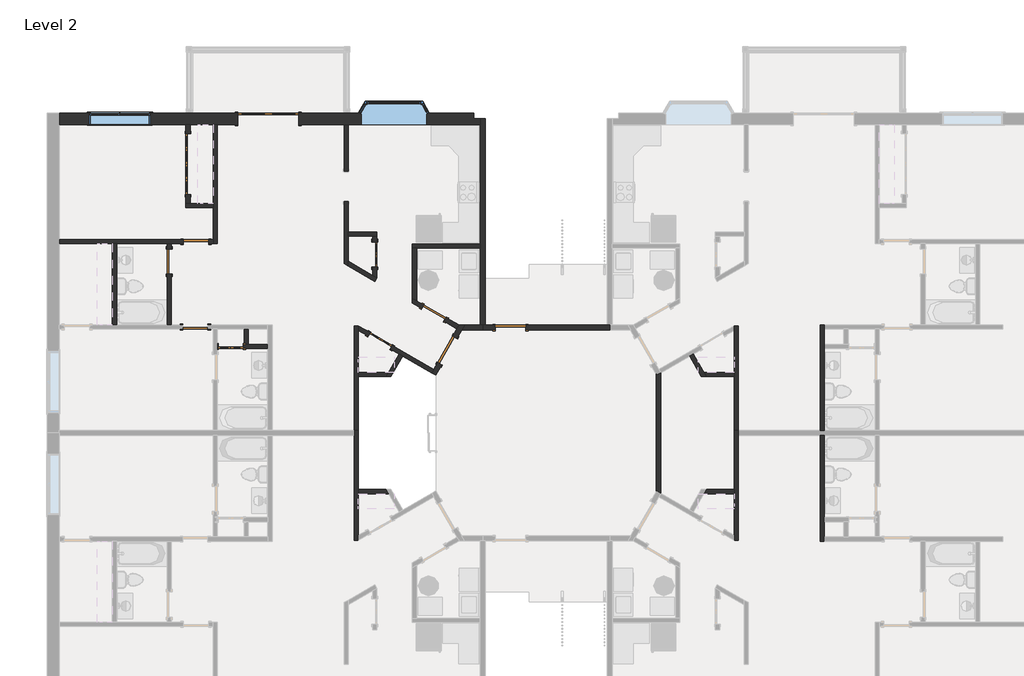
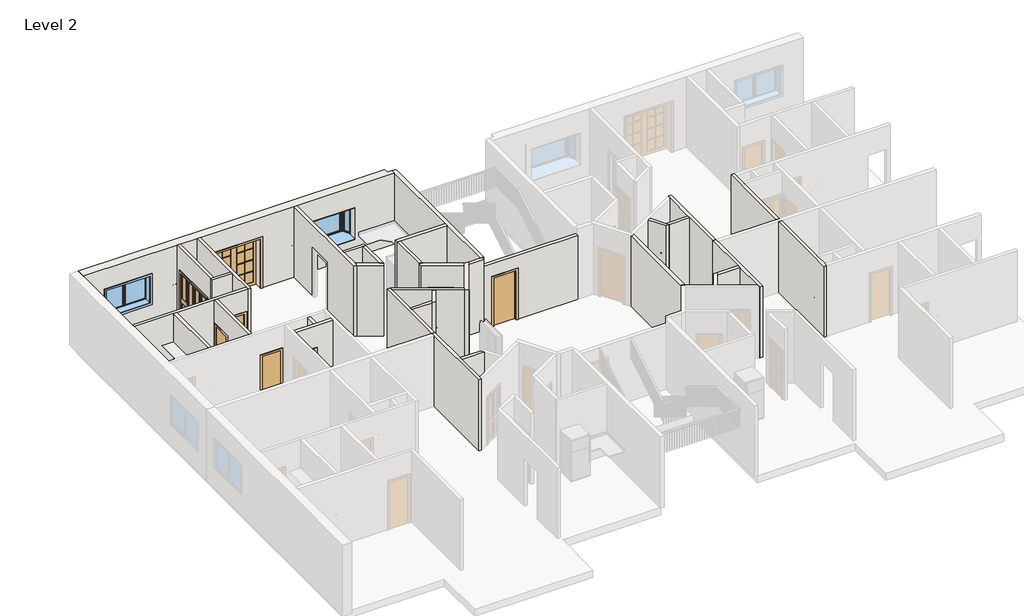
# One storey, part 3 of 5: 34 walls, 11 doors, 2 windows.
"""IFC4 building model written with IfcOpenShell, lengths in millimetres."""

from ifc_helpers import new_model, si_unit, frame, origin, place, context, project, spatial, polyline, outline, extrude, faceted_brep, transform, mapped, element, save
from components import door_28b41c19, door_77c9d7c5, door_beec499a, door_8fade463, door_91cbdfe0, door_39079f6b, door_e1308624, door_51669b0d, window_7fb523db, window_801eb773

model = new_model("IFC4")

# Units and contexts
model_context = context("Model", 3, world=origin())
ifc_project = project(units=[si_unit("LENGTHUNIT", "METRE", prefix="MILLI")], contexts=[model_context])

# Site, building, storey
site = spatial("IfcSite", under=ifc_project)
building = spatial("IfcBuilding", under=site)
storey = spatial("IfcBuildingStorey", under=building, Name="Level 2", Elevation=3048.0)

# Doors
placement = place(None, origin())
door_shape = door_28b41c19(model_context)
element("IfcDoor", 1, ObjectType="Bifold-2 Panel : 30\" x 80\"", at=placement, inside=storey, context=model_context, shape_type="MappedRepresentation", body=[
    mapped(door_shape, transform((-5777.2375398, 7161.5213201, 3048.0), x_axis=(0.0, 1.0, 0.0), y_axis=(-1.0, 0.0, 0.0), z_axis=(0.0, 0.0, 1.0))),
])
element("IfcDoor", 2, ObjectType="Bifold-2 Panel : 30\" x 80\"", at=placement, inside=storey, context=model_context, shape_type="MappedRepresentation", body=[
    mapped(door_shape, transform((-5620.6593942, 4569.8411376, 3048.0), x_axis=(-0.8660254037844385, 0.5000000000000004, 0.0), y_axis=(-0.5000000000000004, -0.8660254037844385, 0.0), z_axis=(0.0, 0.0, 1.0))),
])
door_2_shape = door_77c9d7c5(model_context)
element("IfcDoor", 3, ObjectType="Bifold-2 Panel : 30\" x 80\"", at=placement, inside=storey, context=model_context, shape_type="MappedRepresentation", body=[
    mapped(door_2_shape, transform((-10106.3500398, 4399.2713201, 3048.0), x_axis=(-1.0, 0.0, 0.0), y_axis=(0.0, -1.0, 0.0), z_axis=(0.0, 0.0, 1.0))),
])
door_3_shape = door_beec499a(model_context)
element("IfcDoor", 4, ObjectType="Bifold-4 Panel : 72\" x 80\"", at=placement, inside=storey, context=model_context, shape_type="MappedRepresentation", body=[
    mapped(door_3_shape, transform((-11387.4625398, 9879.3213201, 3048.0), x_axis=(0.0, -1.0, 0.0), y_axis=(1.0, 0.0, 0.0), z_axis=(0.0, 0.0, 1.0))),
])
door_4_shape = door_8fade463(model_context)
element("IfcDoor", 5, ObjectType="Double-Glass 2 : 72\" x 84\"", at=placement, inside=storey, context=model_context, shape_type="MappedRepresentation", body=[
    mapped(door_4_shape, transform((-8972.8750398, 11238.2213201, 3048.0), x_axis=(-1.0, 0.0, 0.0), y_axis=(0.0, -1.0, 0.0), z_axis=(0.0, 0.0, 1.0))),
])
door_5_shape = door_91cbdfe0(model_context)
element("IfcDoor", 6, ObjectType="Single-Flush : 30\" x 80\"", at=placement, inside=storey, context=model_context, shape_type="MappedRepresentation", body=[
    mapped(door_5_shape, transform((-11169.9750398, 4983.4713201, 3048.0), x_axis=(1.0, 0.0, 0.0), y_axis=(0.0, 1.0, 0.0), z_axis=(0.0, 0.0, 1.0))),
])
door_6_shape = door_39079f6b(model_context)
element("IfcDoor", 7, ObjectType="Single-Flush : 30\" x 80\"", at=placement, inside=storey, context=model_context, shape_type="MappedRepresentation", body=[
    mapped(door_6_shape, transform((-11154.1000398, 7545.6963201, 3048.0), x_axis=(1.0, 0.0, 0.0), y_axis=(0.0, 1.0, 0.0), z_axis=(0.0, 0.0, 1.0))),
])
element("IfcDoor", 8, ObjectType="Single-Flush : 30\" x 80\"", at=placement, inside=storey, context=model_context, shape_type="MappedRepresentation", body=[
    mapped(door_6_shape, transform((-4004.5369788, 5400.5472723, 3048.0), x_axis=(0.8660254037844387, -0.4999999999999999, 0.0), y_axis=(0.4999999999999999, 0.8660254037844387, 0.0), z_axis=(0.0, 0.0, 1.0))),
])
element("IfcDoor", 9, ObjectType="Single-Flush : 30\" x 80\"", at=placement, inside=storey, context=model_context, shape_type="MappedRepresentation", body=[
    mapped(door_6_shape, transform((-11949.4375398, 6950.3838201, 3048.0), x_axis=(0.0, 1.0, 0.0), y_axis=(-1.0, 0.0, 0.0), z_axis=(0.0, 0.0, 1.0))),
])
door_7_shape = door_e1308624(model_context)
element("IfcDoor", 10, ObjectType="Single-Flush : 36\" x 80\"", at=placement, inside=storey, context=model_context, shape_type="MappedRepresentation", body=[
    mapped(door_7_shape, transform((-3603.7554054, 4278.6213201, 3048.0), x_axis=(-0.5000000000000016, -0.8660254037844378, 0.0), y_axis=(0.8660254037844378, -0.5000000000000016, 0.0), z_axis=(0.0, 0.0, 1.0))),
])
door_8_shape = door_51669b0d(model_context)
element("IfcDoor", 11, ObjectType="Single-Flush : 36\" x 84\"", at=placement, inside=storey, context=model_context, shape_type="MappedRepresentation", body=[
    mapped(door_8_shape, transform((-1698.9500398, 4964.4213201, 3048.0), x_axis=(-1.0, 0.0, 0.0), y_axis=(0.0, -1.0, 0.0), z_axis=(0.0, 0.0, 1.0))),
])

# Walls
element("IfcWall", 12, ObjectType="Exterior - Brick on Mtl. Stud", at=placement, inside=storey, context=model_context, shape_type="Brep", body=[
    faceted_brep([(-15259.3750398, 11062.0088201, 3048.0), (-11449.3750398, 11062.0088201, 3048.0), (-11325.5500398, 11062.0088201, 3048.0), (-10636.5750398, 11062.0088201, 3048.0), (-10512.7500398, 11062.0088201, 3048.0), (-9887.2750398, 11062.0088201, 3048.0), (-9887.2750398, 11062.0088201, 5181.6), (-8058.4750398, 11062.0088201, 5181.6), (-8058.4750398, 11062.0088201, 3048.0), (-6702.7500398, 11062.0088201, 3048.0), (-6578.9250398, 11062.0088201, 3048.0), (-2813.3750398, 11062.0088201, 3048.0), (-2616.5250398, 11062.0088201, 3048.0), (-2616.5250398, 11062.0088201, 6096.0), (-2813.3750398, 11062.0088201, 6096.0), (-6578.9250398, 11062.0088201, 6096.0), (-6702.7500398, 11062.0088201, 6096.0), (-8058.4750398, 11062.0088201, 6096.0), (-9887.2750398, 11062.0088201, 6096.0), (-10512.7500398, 11062.0088201, 6096.0), (-10636.5750398, 11062.0088201, 6096.0), (-11325.5500398, 11062.0088201, 6096.0), (-11449.3750398, 11062.0088201, 6096.0), (-15259.3750398, 11062.0088201, 6096.0), (-6192.5376998, 11062.0088201, 5181.6), (-4218.9373798, 11062.0088201, 5181.6), (-4218.9373798, 11062.0088201, 3810.0), (-6192.5376998, 11062.0088201, 3810.0), (-14350.5312898, 11062.0088201, 5181.6), (-12521.7312898, 11062.0088201, 5181.6), (-12521.7312898, 11062.0088201, 3962.4), (-14350.5312898, 11062.0088201, 3962.4), (-9887.2750398, 11414.4338201, 5181.6), (-9887.2750398, 11414.4338201, 3048.0), (-15259.3750398, 11414.4338201, 3048.0), (-15259.3750398, 11414.4338201, 6096.0), (-9887.2750398, 11414.4338201, 6096.0), (-8058.4750398, 11414.4338201, 6096.0), (-2813.3750398, 11414.4338201, 6096.0), (-2813.3750398, 11414.4338201, 3048.0), (-8058.4750398, 11414.4338201, 3048.0), (-8058.4750398, 11414.4338201, 5181.6), (-4151.6375398, 11414.4338201, 5181.6), (-6259.7532738, 11414.4338201, 5181.6), (-6259.7532738, 11414.4338201, 3810.0), (-4151.6375398, 11414.4338201, 3810.0), (-14350.5312898, 11414.4338201, 5181.6), (-14350.5312898, 11414.4338201, 3962.4), (-12521.7312898, 11414.4338201, 3962.4), (-12521.7312898, 11414.4338201, 5181.6), (-2813.3750398, 11238.2213201, 3048.0), (-2616.5250398, 11238.2213201, 3048.0), (-2616.5250398, 11238.2213201, 6096.0), (-2813.3750398, 11238.2213201, 6096.0), (-4218.9373798, 11375.4830814, 5181.6), (-6192.5376998, 11375.5317324, 5181.6), (-4218.9373798, 11375.4830814, 3810.0), (-6192.5376998, 11375.5317324, 3810.0)], [[[0, 1, 2, 3, 4, 5, 6, 7, 8, 9, 10, 11, 12, 13, 14, 15, 16, 17, 18, 19, 20, 21, 22, 23], [24, 25, 26, 27], [28, 29, 30, 31]], [[32, 33, 34, 35, 36, 37, 38, 39, 40, 41], [42, 43, 44, 45], [46, 47, 48, 49]], [[34, 33, 5, 4, 3, 2, 1, 0]], [[40, 39, 50, 51, 12, 11, 10, 9, 8]], [[23, 22, 21, 20, 19, 18, 17, 16, 15, 14, 13, 52, 53, 38, 37, 36, 35]], [[0, 23, 35, 34]], [[13, 12, 51, 52]], [[51, 50, 53, 52]], [[50, 39, 38, 53]], [[6, 5, 33, 32]], [[7, 6, 32, 41]], [[8, 7, 41, 40]], [[54, 25, 24, 55, 43, 42]], [[56, 45, 44, 57, 27, 26]], [[54, 56, 26, 25]], [[24, 27, 57, 55]], [[55, 57, 44, 43]], [[42, 45, 56, 54]], [[47, 46, 28, 31]], [[48, 47, 31, 30]], [[49, 48, 30, 29]], [[46, 49, 29, 28]]]),
])
element("IfcWall", 13, ObjectType="Generic - 6\" Masonry", at=placement, inside=storey, context=model_context, shape_type="Brep", body=[
    faceted_brep([(-3166.564131, 4892.9838201, 3048.0), (-2538.7375398, 4892.9838201, 3048.0), (-2538.7375398, 4892.9838201, 5791.2), (-2538.7375398, 4892.9838201, 6096.0), (-3166.564131, 4892.9838201, 6096.0), (-3084.0752113, 5035.8588201, 3048.0), (-3084.0752113, 5035.8588201, 6096.0), (-2616.5250398, 5035.8588201, 6096.0), (-2538.7375398, 5035.8588201, 6096.0), (-2538.7375398, 5035.8588201, 5791.2), (-2538.7375398, 5035.8588201, 3048.0), (-2616.5250398, 5035.8588201, 3048.0)], [[[0, 1, 2, 3, 4]], [[5, 6, 7, 8, 9, 10, 11]], [[1, 0, 5, 11, 10]], [[3, 2, 1, 10, 9, 8]], [[4, 3, 8, 7, 6]], [[0, 4, 6, 5]]]),
])
element("IfcWall", 14, ObjectType="Generic - 6\" Masonry", at=placement, inside=storey, context=model_context, shape_type="Brep", body=[
    faceted_brep([(-3950.9690828, 3534.3545898, 3048.0), (-3770.4887156, 3846.9557555, 3048.0), (-3770.4887156, 3846.9557555, 5080.0), (-3313.2887156, 4638.8493847, 5080.0), (-3313.2887156, 4638.8493847, 3048.0), (-3166.564131, 4892.9838201, 3048.0), (-3084.0752113, 5035.8588201, 3048.0), (-3084.0752113, 5035.8588201, 6096.0), (-3166.564131, 4892.9838201, 6096.0), (-3950.9690828, 3534.3545898, 6096.0), (-3894.2220952, 3918.3932555, 5080.0), (-3894.2220952, 3918.3932555, 3048.0), (-4012.7899624, 3713.0276854, 3048.0), (-4074.7024624, 3605.7920898, 3048.0), (-4074.7024624, 3605.7920898, 6096.0), (-4012.7899624, 3713.0276854, 6096.0), (-3310.9655507, 4928.6232245, 6096.0), (-3249.0530507, 5035.8588201, 6096.0), (-3249.0530507, 5035.8588201, 3048.0), (-3310.9655507, 4928.6232245, 3048.0), (-3437.0220952, 4710.2868847, 3048.0), (-3437.0220952, 4710.2868847, 5080.0)], [[[0, 1, 2, 3, 4, 5, 6, 7, 8, 9]], [[10, 11, 12, 13, 14, 15, 16, 17, 18, 19, 20, 21]], [[13, 12, 11, 1, 0]], [[20, 19, 18, 6, 5, 4]], [[9, 8, 7, 17, 16, 15, 14]], [[7, 6, 18, 17]], [[0, 9, 14, 13]], [[2, 1, 11, 10]], [[3, 2, 10, 21]], [[4, 3, 21, 20]]]),
])
element("IfcWall", 15, ObjectType="Generic - 6\" Masonry", at=placement, inside=storey, context=model_context, shape_type="SweptSolid", body=[
    extrude(outline(polyline([(2810.4023827, 3605.7920898), (2810.4023827, -14.2494496), (2686.6690032, 57.1880504), (2667.5273827, 24.0337913), (2667.5273827, 3567.5088489), (2686.6690032, 3534.3545898), (2810.4023827, 3605.7920898)])), frame((0.0, 0.0, 3048.0), z_axis=(0.0, 0.0, 1.0), x_axis=(1.0, 0.0, 0.0)), (0.0, 0.0, 1.0), 3048.0),
])
element("IfcWall", 16, ObjectType="Generic - 6\" Masonry", at=placement, inside=storey, context=model_context, shape_type="Brep", body=[
    faceted_brep([(-2538.7375398, 4892.9838201, 3048.0), (-2156.1500398, 4892.9838201, 3048.0), (-2156.1500398, 4892.9838201, 5181.6), (-1241.7500398, 4892.9838201, 5181.6), (-1241.7500398, 4892.9838201, 3048.0), (1274.4374602, 4892.9838201, 3048.0), (1274.4374602, 4892.9838201, 5791.2), (-2538.7375398, 4892.9838201, 5791.2), (-2156.1500398, 5035.8588201, 5181.6), (-2156.1500398, 5035.8588201, 3048.0), (-2460.9500398, 5035.8588201, 3048.0), (-2538.7375398, 5035.8588201, 3048.0), (-2538.7375398, 5035.8588201, 5791.2), (1274.4374602, 5035.8588201, 5791.2), (1274.4374602, 5035.8588201, 3048.0), (1196.6499602, 5035.8588201, 3048.0), (-1241.7500398, 5035.8588201, 3048.0), (-1241.7500398, 5035.8588201, 5181.6), (1274.4374602, 4964.4213201, 5791.2), (-2538.7375398, 4964.4213201, 5791.2)], [[[0, 1, 2, 3, 4, 5, 6, 7]], [[8, 9, 10, 11, 12, 13, 14, 15, 16, 17]], [[11, 10, 9, 1, 0]], [[16, 15, 14, 5, 4]], [[6, 5, 14, 13, 18]], [[0, 7, 19, 12, 11]], [[2, 1, 9, 8]], [[3, 2, 8, 17]], [[4, 3, 17, 16]], [[7, 6, 18, 13, 12, 19]]]),
])
element("IfcWall", 17, ObjectType="Interior - 4 7/8\" Partition (1-hr)", at=placement, inside=storey, context=model_context, shape_type="Brep", body=[
    faceted_brep([(-6277.3000398, -1428.900548, 3048.0), (-6277.3000398, -1285.9197539, 3048.0), (-6277.3000398, -28.7548222, 3048.0), (-6277.3000398, 95.0701778, 3048.0), (-6277.3000398, 1873.5588201, 3048.0), (-6277.3000398, 1873.5588201, 6096.0), (-6277.3000398, 95.0701778, 6096.0), (-6277.3000398, -28.7548222, 6096.0), (-6277.3000398, -1285.9197539, 6096.0), (-6277.3000398, -1428.900548, 6096.0), (-6401.1250398, -1428.900548, 3048.0), (-6401.1250398, -1428.900548, 6096.0), (-6401.1250398, 1717.9838201, 6096.0), (-6401.1250398, 1873.5588201, 6096.0), (-6401.1250398, 1873.5588201, 3048.0), (-6401.1250398, 1717.9838201, 3048.0)], [[[0, 1, 2, 3, 4, 5, 6, 7, 8, 9]], [[10, 11, 12, 13, 14, 15]], [[4, 3, 2, 1, 0, 10, 15, 14]], [[9, 8, 7, 6, 5, 13, 12, 11]], [[0, 9, 11, 10]], [[5, 4, 14, 13]]]),
])
element("IfcWall", 18, ObjectType="Interior - 4 7/8\" Partition (1-hr)", at=placement, inside=storey, context=model_context, shape_type="SweptSolid", body=[
    extrude(outline(polyline([(-6277.3000398, 95.0701778), (-5439.310023, 95.0701778), (-5367.8196259, -28.7548222), (-6277.3000398, -28.7548222), (-6277.3000398, 95.0701778)])), frame((0.0, 0.0, 3048.0), z_axis=(0.0, 0.0, 1.0), x_axis=(1.0, 0.0, 0.0)), (0.0, 0.0, 1.0), 3048.0),
])
element("IfcWall", 19, ObjectType="Interior - 4 7/8\" Partition (1-hr)", at=placement, inside=storey, context=model_context, shape_type="Brep", body=[
    faceted_brep([(-6702.7500398, 11062.0088201, 3048.0), (-6702.7500398, 9663.4213201, 3048.0), (-6702.7500398, 9663.4213201, 5080.0), (-6702.7500398, 8749.0213201, 5080.0), (-6702.7500398, 8749.0213201, 3048.0), (-6702.7500398, 6886.8709123, 3048.0), (-6702.7500398, 6886.8709123, 6096.0), (-6702.7500398, 11062.0088201, 6096.0), (-6578.9250398, 9663.4213201, 5080.0), (-6578.9250398, 9663.4213201, 3048.0), (-6578.9250398, 11062.0088201, 3048.0), (-6578.9250398, 11062.0088201, 6096.0), (-6578.9250398, 7836.2088201, 6096.0), (-6578.9250398, 7712.3838201, 6096.0), (-6578.9250398, 6958.3613094, 6096.0), (-6578.9250398, 6815.3805152, 6096.0), (-6578.9250398, 6815.3805152, 3048.0), (-6578.9250398, 6958.3613094, 3048.0), (-6578.9250398, 7712.3838201, 3048.0), (-6578.9250398, 7836.2088201, 3048.0), (-6578.9250398, 8749.0213201, 3048.0), (-6578.9250398, 8749.0213201, 5080.0)], [[[0, 1, 2, 3, 4, 5, 6, 7]], [[8, 9, 10, 11, 12, 13, 14, 15, 16, 17, 18, 19, 20, 21]], [[10, 9, 1, 0]], [[20, 19, 18, 17, 16, 5, 4]], [[7, 6, 15, 14, 13, 12, 11]], [[6, 5, 16, 15]], [[0, 7, 11, 10]], [[4, 3, 21, 20]], [[2, 1, 9, 8]], [[3, 2, 8, 21]]]),
])
element("IfcWall", 20, ObjectType="Interior - 4 7/8\" Partition (1-hr)", at=placement, inside=storey, context=model_context, shape_type="Brep", body=[
    faceted_brep([(-10636.5750398, 11062.0088201, 3048.0), (-10636.5750398, 8696.6338201, 3048.0), (-10636.5750398, 8572.8088201, 3048.0), (-10636.5750398, 7607.6088201, 3048.0), (-10636.5750398, 7483.7838201, 3048.0), (-10636.5750398, 7483.7838201, 6096.0), (-10636.5750398, 7607.6088201, 6096.0), (-10636.5750398, 8572.8088201, 6096.0), (-10636.5750398, 8696.6338201, 6096.0), (-10636.5750398, 11062.0088201, 6096.0), (-10512.7500398, 11062.0088201, 3048.0), (-10512.7500398, 11062.0088201, 6096.0), (-10512.7500398, 7483.7838201, 6096.0), (-10512.7500398, 7483.7838201, 3048.0)], [[[0, 1, 2, 3, 4, 5, 6, 7, 8, 9]], [[10, 11, 12, 13]], [[4, 3, 2, 1, 0, 10, 13]], [[9, 8, 7, 6, 5, 12, 11]], [[5, 4, 13, 12]], [[0, 9, 11, 10]]]),
])
element("IfcWall", 21, ObjectType="Interior - 4 7/8\" Partition (1-hr)", at=placement, inside=storey, context=model_context, shape_type="Brep", body=[
    faceted_brep([(-10636.5750398, 7607.6088201, 3048.0), (-10773.1000398, 7607.6088201, 3048.0), (-10773.1000398, 7607.6088201, 5080.0), (-11535.1000398, 7607.6088201, 5080.0), (-11535.1000398, 7607.6088201, 3048.0), (-15259.3750398, 7607.6088201, 3048.0), (-15259.3750398, 7607.6088201, 6096.0), (-10636.5750398, 7607.6088201, 6096.0), (-10773.1000398, 7483.7838201, 5080.0), (-10773.1000398, 7483.7838201, 3048.0), (-10636.5750398, 7483.7838201, 3048.0), (-10636.5750398, 7483.7838201, 6096.0), (-11887.5250398, 7483.7838201, 6096.0), (-12011.3500398, 7483.7838201, 6096.0), (-13535.3500398, 7483.7838201, 6096.0), (-13659.1750398, 7483.7838201, 6096.0), (-15259.3750398, 7483.7838201, 6096.0), (-15259.3750398, 7483.7838201, 3048.0), (-13659.1750398, 7483.7838201, 3048.0), (-13535.3500398, 7483.7838201, 3048.0), (-12011.3500398, 7483.7838201, 3048.0), (-11887.5250398, 7483.7838201, 3048.0), (-11535.1000398, 7483.7838201, 3048.0), (-11535.1000398, 7483.7838201, 5080.0)], [[[0, 1, 2, 3, 4, 5, 6, 7]], [[8, 9, 10, 11, 12, 13, 14, 15, 16, 17, 18, 19, 20, 21, 22, 23]], [[10, 9, 1, 0]], [[22, 21, 20, 19, 18, 17, 5, 4]], [[7, 6, 16, 15, 14, 13, 12, 11]], [[6, 5, 17, 16]], [[0, 7, 11, 10]], [[2, 1, 9, 8]], [[3, 2, 8, 23]], [[4, 3, 23, 22]]]),
])
element("IfcWall", 22, ObjectType="Interior - 4 7/8\" Partition (1-hr)", at=placement, inside=storey, context=model_context, shape_type="SweptSolid", body=[
    extrude(outline(polyline([(7483.7838201, 3048.0), (7331.3838201, 3048.0), (7331.3838201, 5080.0), (6569.3838201, 5080.0), (6569.3838201, 3048.0), (5045.3838201, 3048.0), (5045.3838201, 6096.0), (7483.7838201, 6096.0), (7483.7838201, 3048.0)])), frame((-12011.3500398, 0.0, 0.0), z_axis=(1.0, 0.0, 0.0), x_axis=(0.0, 1.0, 0.0)), (0.0, 0.0, 1.0), 123.825),
])
element("IfcWall", 23, ObjectType="Interior - 4 7/8\" Partition (1-hr)", at=placement, inside=storey, context=model_context, shape_type="Brep", body=[
    faceted_brep([(-10636.5750398, 8696.6338201, 3048.0), (-11325.5500398, 8696.6338201, 3048.0), (-11449.3750398, 8696.6338201, 3048.0), (-11449.3750398, 8696.6338201, 6096.0), (-11325.5500398, 8696.6338201, 6096.0), (-10636.5750398, 8696.6338201, 6096.0), (-10636.5750398, 8572.8088201, 3048.0), (-10636.5750398, 8572.8088201, 6096.0), (-11449.3750398, 8572.8088201, 6096.0), (-11449.3750398, 8572.8088201, 3048.0)], [[[0, 1, 2, 3, 4, 5]], [[6, 7, 8, 9]], [[2, 1, 0, 6, 9]], [[5, 4, 3, 8, 7]], [[3, 2, 9, 8]], [[0, 5, 7, 6]]]),
])
element("IfcWall", 24, ObjectType="Interior - 4 7/8\" Partition (1-hr)", at=placement, inside=storey, context=model_context, shape_type="SweptSolid", body=[
    extrude(outline(polyline([(8964.9213201, 5080.0), (8964.9213201, 3048.0), (8696.6338201, 3048.0), (8696.6338201, 6096.0), (11062.0088201, 6096.0), (11062.0088201, 3048.0), (10793.7213201, 3048.0), (10793.7213201, 5080.0), (8964.9213201, 5080.0)])), frame((-11449.3750398, 0.0, 0.0), z_axis=(1.0, 0.0, 0.0), x_axis=(0.0, 1.0, 0.0)), (0.0, 0.0, 1.0), 123.825),
])
element("IfcWall", 25, ObjectType="Interior - 4 7/8\" Partition (1-hr)", at=placement, inside=storey, context=model_context, shape_type="SweptSolid", body=[
    extrude(outline(polyline([(-13659.1750398, 5045.3838201), (-13659.1750398, 7483.7838201), (-13535.3500398, 7483.7838201), (-13535.3500398, 5045.3838201), (-13659.1750398, 5045.3838201)])), frame((0.0, 0.0, 3048.0), z_axis=(0.0, 0.0, 1.0), x_axis=(1.0, 0.0, 0.0)), (0.0, 0.0, 1.0), 3048.0),
])
element("IfcWall", 26, ObjectType="Interior - 4 7/8\" Partition (1-hr)", at=placement, inside=storey, context=model_context, shape_type="Brep", body=[
    faceted_brep([(-6578.9250398, 7712.3838201, 3048.0), (-5839.1500398, 7712.3838201, 3048.0), (-5715.3250398, 7712.3838201, 3048.0), (-5715.3250398, 7712.3838201, 6096.0), (-5839.1500398, 7712.3838201, 6096.0), (-6578.9250398, 7712.3838201, 6096.0), (-6578.9250398, 7836.2088201, 3048.0), (-6578.9250398, 7836.2088201, 6096.0), (-5715.3250398, 7836.2088201, 6096.0), (-5715.3250398, 7836.2088201, 3048.0)], [[[0, 1, 2, 3, 4, 5]], [[6, 7, 8, 9]], [[2, 1, 0, 6, 9]], [[5, 4, 3, 8, 7]], [[3, 2, 9, 8]], [[0, 5, 7, 6]]]),
])
element("IfcWall", 27, ObjectType="Interior - 4 7/8\" Partition (1-hr)", at=placement, inside=storey, context=model_context, shape_type="Brep", body=[
    faceted_brep([(-5839.1500398, 7712.3838201, 3048.0), (-5839.1500398, 7542.5213201, 3048.0), (-5839.1500398, 7542.5213201, 5080.0), (-5839.1500398, 6780.5213201, 5080.0), (-5839.1500398, 6780.5213201, 3048.0), (-5839.1500398, 6531.252014, 3048.0), (-5839.1500398, 6531.252014, 6096.0), (-5839.1500398, 7712.3838201, 6096.0), (-5715.3250398, 7542.5213201, 5080.0), (-5715.3250398, 7542.5213201, 3048.0), (-5715.3250398, 7712.3838201, 3048.0), (-5715.3250398, 7712.3838201, 6096.0), (-5715.3250398, 6459.7616169, 6096.0), (-5715.3250398, 6459.7616169, 3048.0), (-5715.3250398, 6780.5213201, 3048.0), (-5715.3250398, 6780.5213201, 5080.0)], [[[0, 1, 2, 3, 4, 5, 6, 7]], [[8, 9, 10, 11, 12, 13, 14, 15]], [[10, 9, 1, 0]], [[14, 13, 5, 4]], [[7, 6, 12, 11]], [[6, 5, 13, 12]], [[0, 7, 11, 10]], [[2, 1, 9, 8]], [[3, 2, 8, 15]], [[4, 3, 15, 14]]]),
])
element("IfcWall", 28, ObjectType="Interior - 4 7/8\" Partition (1-hr)", at=placement, inside=storey, context=model_context, shape_type="Brep", body=[
    faceted_brep([(-3249.0530507, 5035.8588201, 3048.0), (-3643.62505, 5263.6650701, 3048.0), (-3643.62505, 5263.6650701, 5080.0), (-4303.5364076, 5644.6650701, 5080.0), (-4303.5364076, 5644.6650701, 3048.0), (-4524.7000398, 5772.3539527, 3048.0), (-4648.5250398, 5843.8443497, 3048.0), (-4648.5250398, 5843.8443497, 6096.0), (-4524.7000398, 5772.3539527, 6096.0), (-3249.0530507, 5035.8588201, 6096.0), (-3705.53755, 5156.4294745, 5080.0), (-3705.53755, 5156.4294745, 3048.0), (-3310.9655507, 4928.6232245, 3048.0), (-3310.9655507, 4928.6232245, 6096.0), (-4648.5250398, 5700.8635556, 6096.0), (-4648.5250398, 5700.8635556, 3048.0), (-4365.4489076, 5537.4294745, 3048.0), (-4365.4489076, 5537.4294745, 5080.0)], [[[0, 1, 2, 3, 4, 5, 6, 7, 8, 9]], [[10, 11, 12, 13, 14, 15, 16, 17]], [[12, 11, 1, 0]], [[16, 15, 6, 5, 4]], [[9, 8, 7, 14, 13]], [[7, 6, 15, 14]], [[0, 9, 13, 12]], [[2, 1, 11, 10]], [[3, 2, 10, 17]], [[4, 3, 17, 16]]]),
])
element("IfcWall", 29, ObjectType="Interior - 4 7/8\" Partition (1-hr)", at=placement, inside=storey, context=model_context, shape_type="Brep", body=[
    faceted_brep([(-6401.1250398, 5020.4431882, 3048.0), (-6401.1250398, 1873.5588201, 3048.0), (-6401.1250398, 1873.5588201, 6096.0), (-6401.1250398, 5020.4431882, 6096.0), (-6277.3000398, 5020.4431882, 3048.0), (-6277.3000398, 5020.4431882, 6096.0), (-6277.3000398, 4877.462394, 6096.0), (-6277.3000398, 3620.2974624, 6096.0), (-6277.3000398, 3496.4724624, 6096.0), (-6277.3000398, 1873.5588201, 6096.0), (-6277.3000398, 1873.5588201, 3048.0), (-6277.3000398, 3496.4724624, 3048.0), (-6277.3000398, 3620.2974624, 3048.0), (-6277.3000398, 4877.462394, 3048.0)], [[[0, 1, 2, 3]], [[4, 5, 6, 7, 8, 9, 10, 11, 12, 13]], [[1, 0, 4, 13, 12, 11, 10]], [[3, 2, 9, 8, 7, 6, 5]], [[0, 3, 5, 4]], [[2, 1, 10, 9]]]),
])
element("IfcWall", 30, ObjectType="Interior - 4 7/8\" Partition (1-hr)", at=placement, inside=storey, context=model_context, shape_type="Brep", body=[
    faceted_brep([(-4648.5250398, 7356.7838201, 3048.0), (-4524.7000398, 7356.7838201, 3048.0), (-2616.5250398, 7356.7838201, 3048.0), (-2616.5250398, 7356.7838201, 6096.0), (-4524.7000398, 7356.7838201, 6096.0), (-4648.5250398, 7356.7838201, 6096.0), (-4648.5250398, 7480.6088201, 3048.0), (-4648.5250398, 7480.6088201, 6096.0), (-2616.5250398, 7480.6088201, 6096.0), (-2616.5250398, 7480.6088201, 3048.0)], [[[0, 1, 2, 3, 4, 5]], [[6, 7, 8, 9]], [[2, 1, 0, 6, 9]], [[5, 4, 3, 8, 7]], [[0, 5, 7, 6]], [[3, 2, 9, 8]]]),
])
element("IfcWall", 31, ObjectType="Interior - 4 7/8\" Partition (1-hr)", at=placement, inside=storey, context=model_context, shape_type="SweptSolid", body=[
    extrude(outline(polyline([(-4648.5250398, 5843.8443497), (-4648.5250398, 7356.7838201), (-4524.7000398, 7356.7838201), (-4524.7000398, 5772.3539527), (-4648.5250398, 5843.8443497)])), frame((0.0, 0.0, 3048.0), z_axis=(0.0, 0.0, 1.0), x_axis=(1.0, 0.0, 0.0)), (0.0, 0.0, 1.0), 3048.0),
])
element("IfcWall", 32, ObjectType="Interior - 4 7/8\" Partition (1-hr)", at=placement, inside=storey, context=model_context, shape_type="Brep", body=[
    faceted_brep([(-5715.3250398, 6459.7616169, 3048.0), (-5839.1500398, 6531.252014, 3048.0), (-6578.9250398, 6958.3613094, 3048.0), (-6578.9250398, 6958.3613094, 6096.0), (-5839.1500398, 6531.252014, 6096.0), (-5715.3250398, 6459.7616169, 6096.0), (-5777.2375398, 6352.5260213, 3048.0), (-5777.2375398, 6352.5260213, 6096.0), (-6578.9250398, 6815.3805152, 6096.0), (-6578.9250398, 6815.3805152, 3048.0)], [[[0, 1, 2, 3, 4, 5]], [[6, 7, 8, 9]], [[2, 1, 0, 6, 9]], [[5, 4, 3, 8, 7]], [[0, 5, 7, 6]], [[3, 2, 9, 8]]]),
])
element("IfcWall", 33, ObjectType="Interior - 4 7/8\" Partition (1-hr)", at=placement, inside=storey, context=model_context, shape_type="Brep", body=[
    faceted_brep([(-6277.3000398, 4877.462394, 3048.0), (-5981.571323, 4706.7233398, 3048.0), (-5981.571323, 4706.7233398, 5080.0), (-5321.6599653, 4325.7233398, 5080.0), (-5321.6599653, 4325.7233398, 3048.0), (-5050.8213456, 4169.3545898, 3048.0), (-4943.58575, 4107.4420898, 3048.0), (-4074.7024624, 3605.7920898, 3048.0), (-4074.7024624, 3605.7920898, 6096.0), (-4943.58575, 4107.4420898, 6096.0), (-5050.8213456, 4169.3545898, 6096.0), (-6277.3000398, 4877.462394, 6096.0), (-5919.658823, 4813.9589354, 5080.0), (-5919.658823, 4813.9589354, 3048.0), (-6277.3000398, 5020.4431882, 3048.0), (-6277.3000398, 5020.4431882, 6096.0), (-4012.7899624, 3713.0276854, 6096.0), (-4012.7899624, 3713.0276854, 3048.0), (-5259.7474653, 4432.9589354, 3048.0), (-5259.7474653, 4432.9589354, 5080.0)], [[[0, 1, 2, 3, 4, 5, 6, 7, 8, 9, 10, 11]], [[12, 13, 14, 15, 16, 17, 18, 19]], [[14, 13, 1, 0]], [[18, 17, 7, 6, 5, 4]], [[11, 10, 9, 8, 16, 15]], [[0, 11, 15, 14]], [[8, 7, 17, 16]], [[2, 1, 13, 12]], [[3, 2, 12, 19]], [[4, 3, 19, 18]]]),
])
element("IfcWall", 34, ObjectType="Interior - 4 7/8\" Partition (1-hr)", at=placement, inside=storey, context=model_context, shape_type="Brep", body=[
    faceted_brep([(-5050.8213456, 4169.3545898, 3048.0), (-5367.8196259, 3620.2974624, 3048.0), (-5439.310023, 3496.4724624, 3048.0), (-5439.310023, 3496.4724624, 6096.0), (-5367.8196259, 3620.2974624, 6096.0), (-5050.8213456, 4169.3545898, 6096.0), (-4943.58575, 4107.4420898, 3048.0), (-4943.58575, 4107.4420898, 6096.0), (-5296.3292288, 3496.4724624, 6096.0), (-5296.3292288, 3496.4724624, 3048.0)], [[[0, 1, 2, 3, 4, 5]], [[6, 7, 8, 9]], [[2, 1, 0, 6, 9]], [[5, 4, 3, 8, 7]], [[3, 2, 9, 8]], [[0, 5, 7, 6]]]),
])
element("IfcWall", 35, ObjectType="Interior - 4 7/8\" Partition (1-hr)", at=placement, inside=storey, context=model_context, shape_type="SweptSolid", body=[
    extrude(outline(polyline([(-6277.3000398, 3620.2974624), (-5367.8196259, 3620.2974624), (-5439.310023, 3496.4724624), (-6277.3000398, 3496.4724624), (-6277.3000398, 3620.2974624)])), frame((0.0, 0.0, 3048.0), z_axis=(0.0, 0.0, 1.0), x_axis=(1.0, 0.0, 0.0)), (0.0, 0.0, 1.0), 3048.0),
])
element("IfcWall", 36, ObjectType="Interior - 4 7/8\" Partition (1-hr)", at=placement, inside=storey, context=model_context, shape_type="Brep", body=[
    faceted_brep([(-10512.7500398, 4461.1838201, 6096.0), (-9699.9500398, 4461.1838201, 6096.0), (-9576.1250398, 4461.1838201, 6096.0), (-8988.7500398, 4461.1838201, 6096.0), (-8988.7500398, 4461.1838201, 3048.0), (-9576.1250398, 4461.1838201, 3048.0), (-9699.9500398, 4461.1838201, 3048.0), (-9725.3500398, 4461.1838201, 3048.0), (-9725.3500398, 4461.1838201, 5080.0), (-10487.3500398, 4461.1838201, 5080.0), (-10487.3500398, 4461.1838201, 3048.0), (-10512.7500398, 4461.1838201, 3048.0), (-8988.7500398, 4337.3588201, 6096.0), (-10512.7500398, 4337.3588201, 6096.0), (-10512.7500398, 4337.3588201, 3048.0), (-10487.3500398, 4337.3588201, 3048.0), (-10487.3500398, 4337.3588201, 5080.0), (-9725.3500398, 4337.3588201, 5080.0), (-9725.3500398, 4337.3588201, 3048.0), (-8988.7500398, 4337.3588201, 3048.0)], [[[0, 1, 2, 3, 4, 5, 6, 7, 8, 9, 10, 11]], [[12, 13, 14, 15, 16, 17, 18, 19]], [[4, 19, 18, 7, 6, 5]], [[14, 11, 10, 15]], [[3, 2, 1, 0, 13, 12]], [[9, 16, 15, 10]], [[16, 9, 8, 17]], [[17, 8, 7, 18]], [[4, 3, 12, 19]], [[0, 11, 14, 13]]]),
])
element("IfcWall", 37, ObjectType="Interior - 4 7/8\" Partition (1-hr)", at=placement, inside=storey, context=model_context, shape_type="SweptSolid", body=[
    extrude(outline(polyline([(-9576.1250398, 4921.5588201), (-9576.1250398, 4461.1838201), (-9699.9500398, 4461.1838201), (-9699.9500398, 4921.5588201), (-9576.1250398, 4921.5588201)])), frame((0.0, 0.0, 3048.0), z_axis=(0.0, 0.0, 1.0), x_axis=(1.0, 0.0, 0.0)), (0.0, 0.0, 1.0), 3048.0),
])
element("IfcWall", 38, ObjectType="Interior - 4 7/8\" Partition (1-hr)", at=placement, inside=storey, context=model_context, shape_type="Brep", body=[
    faceted_brep([(7724.4499602, -1453.8411799, 3048.0), (7724.4499602, -1330.0161799, 3048.0), (7724.4499602, -869.6411799, 3048.0), (7724.4499602, -745.8161799, 3048.0), (7724.4499602, 1717.9838201, 3048.0), (7724.4499602, 1717.9838201, 6096.0), (7724.4499602, -745.8161799, 6096.0), (7724.4499602, -869.6411799, 6096.0), (7724.4499602, -1330.0161799, 6096.0), (7724.4499602, -1453.8411799, 6096.0), (7600.6249602, -1453.8411799, 3048.0), (7600.6249602, -1453.8411799, 6096.0), (7600.6249602, 1717.9838201, 6096.0), (7600.6249602, 1717.9838201, 3048.0)], [[[0, 1, 2, 3, 4, 5, 6, 7, 8, 9]], [[10, 11, 12, 13]], [[4, 3, 2, 1, 0, 10, 13]], [[9, 8, 7, 6, 5, 12, 11]], [[0, 9, 11, 10]], [[5, 4, 13, 12]]]),
])
element("IfcWall", 39, ObjectType="Interior - 4 7/8\" Partition (1-hr)", at=placement, inside=storey, context=model_context, shape_type="Brep", body=[
    faceted_brep([(5136.8249602, -1428.900548, 3048.0), (5136.8249602, 1717.9838201, 3048.0), (5136.8249602, 1873.5588201, 3048.0), (5136.8249602, 1873.5588201, 6096.0), (5136.8249602, 1717.9838201, 6096.0), (5136.8249602, -1428.900548, 6096.0), (5012.9999602, -1428.900548, 3048.0), (5012.9999602, -1428.900548, 6096.0), (5012.9999602, -1285.9197539, 6096.0), (5012.9999602, -28.7548222, 6096.0), (5012.9999602, 95.0701778, 6096.0), (5012.9999602, 1873.5588201, 6096.0), (5012.9999602, 1873.5588201, 3048.0), (5012.9999602, 95.0701778, 3048.0), (5012.9999602, -28.7548222, 3048.0), (5012.9999602, -1285.9197539, 3048.0)], [[[0, 1, 2, 3, 4, 5]], [[6, 7, 8, 9, 10, 11, 12, 13, 14, 15]], [[2, 1, 0, 6, 15, 14, 13, 12]], [[5, 4, 3, 11, 10, 9, 8, 7]], [[0, 5, 7, 6]], [[3, 2, 12, 11]]]),
])
element("IfcWall", 40, ObjectType="Interior - 4 7/8\" Partition (1-hr)", at=placement, inside=storey, context=model_context, shape_type="SweptSolid", body=[
    extrude(outline(polyline([(5012.9999602, -28.7548222), (4103.5195463, -28.7548222), (4175.0099434, 95.0701778), (5012.9999602, 95.0701778), (5012.9999602, -28.7548222)])), frame((0.0, 0.0, 3048.0), z_axis=(0.0, 0.0, 1.0), x_axis=(1.0, 0.0, 0.0)), (0.0, 0.0, 1.0), 3048.0),
])
element("IfcWall", 41, ObjectType="Interior - 4 7/8\" Partition (1-hr)", at=placement, inside=storey, context=model_context, shape_type="Brep", body=[
    faceted_brep([(7600.6249602, 5045.3838201, 3048.0), (7600.6249602, 1873.5588201, 3048.0), (7600.6249602, 1873.5588201, 6096.0), (7600.6249602, 5045.3838201, 6096.0), (7724.4499602, 5045.3838201, 3048.0), (7724.4499602, 5045.3838201, 6096.0), (7724.4499602, 4921.5588201, 6096.0), (7724.4499602, 4461.1838201, 6096.0), (7724.4499602, 4337.3588201, 6096.0), (7724.4499602, 1873.5588201, 6096.0), (7724.4499602, 1873.5588201, 3048.0), (7724.4499602, 4337.3588201, 3048.0), (7724.4499602, 4461.1838201, 3048.0), (7724.4499602, 4921.5588201, 3048.0)], [[[0, 1, 2, 3]], [[4, 5, 6, 7, 8, 9, 10, 11, 12, 13]], [[1, 0, 4, 13, 12, 11, 10]], [[3, 2, 9, 8, 7, 6, 5]], [[0, 3, 5, 4]], [[2, 1, 10, 9]]]),
])
element("IfcWall", 42, ObjectType="Interior - 4 7/8\" Partition (1-hr)", at=placement, inside=storey, context=model_context, shape_type="Brep", body=[
    faceted_brep([(5012.9999602, 5020.4431882, 3048.0), (5012.9999602, 4877.462394, 3048.0), (5012.9999602, 3620.2974624, 3048.0), (5012.9999602, 3496.4724624, 3048.0), (5012.9999602, 1873.5588201, 3048.0), (5012.9999602, 1873.5588201, 6096.0), (5012.9999602, 3496.4724624, 6096.0), (5012.9999602, 3620.2974624, 6096.0), (5012.9999602, 4877.462394, 6096.0), (5012.9999602, 5020.4431882, 6096.0), (5136.8249602, 5020.4431882, 3048.0), (5136.8249602, 5020.4431882, 6096.0), (5136.8249602, 1873.5588201, 6096.0), (5136.8249602, 1873.5588201, 3048.0)], [[[0, 1, 2, 3, 4, 5, 6, 7, 8, 9]], [[10, 11, 12, 13]], [[4, 3, 2, 1, 0, 10, 13]], [[9, 8, 7, 6, 5, 12, 11]], [[0, 9, 11, 10]], [[5, 4, 13, 12]]]),
])
element("IfcWall", 43, ObjectType="Interior - 4 7/8\" Partition (1-hr)", at=placement, inside=storey, context=model_context, shape_type="Brep", body=[
    faceted_brep([(3679.2856704, 4107.4420898, 3048.0), (4032.0291492, 3496.4724624, 3048.0), (4032.0291492, 3496.4724624, 6096.0), (3679.2856704, 4107.4420898, 6096.0), (3786.521266, 4169.3545898, 3048.0), (3786.521266, 4169.3545898, 6096.0), (4103.5195463, 3620.2974624, 6096.0), (4175.0099434, 3496.4724624, 6096.0), (4175.0099434, 3496.4724624, 3048.0), (4103.5195463, 3620.2974624, 3048.0)], [[[0, 1, 2, 3]], [[4, 5, 6, 7, 8, 9]], [[1, 0, 4, 9, 8]], [[3, 2, 7, 6, 5]], [[2, 1, 8, 7]], [[0, 3, 5, 4]]]),
])
element("IfcWall", 44, ObjectType="Interior - 4 7/8\" Partition (1-hr)", at=placement, inside=storey, context=model_context, shape_type="SweptSolid", body=[
    extrude(outline(polyline([(5012.9999602, 3496.4724624), (4175.0099434, 3496.4724624), (4103.5195463, 3620.2974624), (5012.9999602, 3620.2974624), (5012.9999602, 3496.4724624)])), frame((0.0, 0.0, 3048.0), z_axis=(0.0, 0.0, 1.0), x_axis=(1.0, 0.0, 0.0)), (0.0, 0.0, 1.0), 3048.0),
])
element("IfcWall", 45, ObjectType="Interior - 6 1/8\" Partition (2-hr)", at=placement, inside=storey, context=model_context, shape_type="Brep", body=[
    faceted_brep([(-2460.9500398, 5035.8588201, 6096.0), (-2460.9500398, 5035.8588201, 3048.0), (-2460.9500398, 11062.0088201, 3048.0), (-2460.9500398, 11238.2213201, 3048.0), (-2460.9500398, 11238.2213201, 6096.0), (-2460.9500398, 11062.0088201, 6096.0), (-2616.5250398, 5035.8588201, 3048.0), (-2616.5250398, 5035.8588201, 6096.0), (-2616.5250398, 7356.7838201, 6096.0), (-2616.5250398, 7480.6088201, 6096.0), (-2616.5250398, 11062.0088201, 6096.0), (-2616.5250398, 11238.2213201, 6096.0), (-2616.5250398, 11238.2213201, 3048.0), (-2616.5250398, 11062.0088201, 3048.0), (-2616.5250398, 7480.6088201, 3048.0), (-2616.5250398, 7356.7838201, 3048.0), (-2538.7375398, 5035.8588201, 3048.0), (-2538.7375398, 5035.8588201, 6096.0)], [[[0, 1, 2, 3, 4, 5]], [[6, 7, 8, 9, 10, 11, 12, 13, 14, 15]], [[3, 2, 1, 16, 6, 15, 14, 13, 12]], [[4, 3, 12, 11]], [[0, 5, 4, 11, 10, 9, 8, 7, 17]], [[0, 17, 7, 6, 16, 1]]]),
])

# Windows
window_shape = window_7fb523db(model_context)
element("IfcWindow", 46, ObjectType="Bay-30 Deg : 84\" x 54\"", at=placement, inside=storey, context=model_context, shape_type="MappedRepresentation", body=[
    mapped(window_shape, transform((-5205.7861908, 11238.2213201, 3048.0), x_axis=(-1.0, 0.0, 0.0), y_axis=(0.0, -1.0, 0.0), z_axis=(0.0, 0.0, 1.0))),
])
window_2_shape = window_801eb773(model_context)
element("IfcWindow", 47, ObjectType="Casement Dbl with Trim : 72\" x 48\"", at=placement, inside=storey, context=model_context, shape_type="MappedRepresentation", body=[
    mapped(window_2_shape, transform((-13436.1312898, 11219.1713201, 2743.2), x_axis=(-1.0, 0.0, 0.0), y_axis=(0.0, -1.0, 0.0), z_axis=(0.0, 0.0, 1.0))),
])

save(model, "model.ifc")
